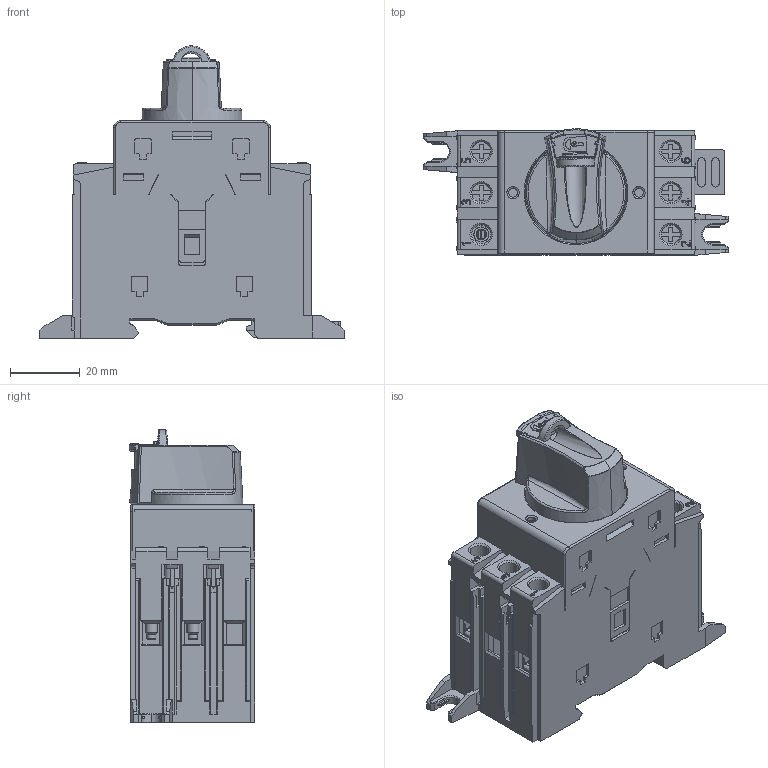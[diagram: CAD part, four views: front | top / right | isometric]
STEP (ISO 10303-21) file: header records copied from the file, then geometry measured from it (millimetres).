
FILE_DESCRIPTION (( 'STEP AP203' ), '1' );
FILE_NAME ('NF2-40DB3.STEP', '2024-02-29T07:00:16', ( 'wzjh' ), ( '' ), 'SwSTEP 2.0', 'SolidWorks 2023', '' );
FILE_SCHEMA (( 'CONFIG_CONTROL_DESIGN' ));
Products named in the file (1): NF2-40DB3
Bounding box: 87 x 35.98 x 83.58 mm (x, y, z)
Volume: 116812.1 mm3; surface area: 50431.8 mm2
Topology: 2 solids, 36 shells, 2790 faces, 7778 edges, 5087 vertices
Faces by surface type: plane 1906, cylinder 661, bspline 130, cone 82, torus 7, sphere 4
Entity records: 96724 total; most frequent: CARTESIAN_POINT 25452, ORIENTED_EDGE 15540, DIRECTION 13937, EDGE_CURVE 7770, LINE 5779, VECTOR 5779, VERTEX_POINT 5085, AXIS2_PLACEMENT_3D 4079
